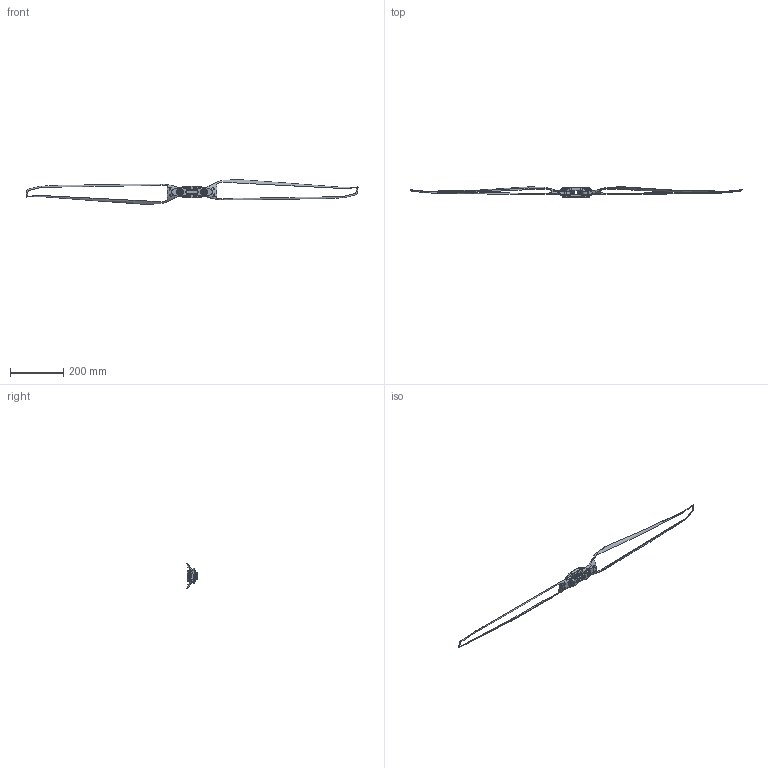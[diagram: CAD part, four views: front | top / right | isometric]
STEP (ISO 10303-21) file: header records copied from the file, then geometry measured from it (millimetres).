
FILE_DESCRIPTION (( 'STEP AP203' ), '1' );
FILE_NAME ('49渡蔑標蚾饜.STEP', '2025-02-11T05:25:42', ( '' ), ( '' ), 'SwSTEP 2.0', 'SolidWorks 2022', '' );
FILE_SCHEMA (( 'CONFIG_CONTROL_DESIGN' ));
Length unit declared in the file: millimetre
Products named in the file (7): 49寸桨夹装配; 下板0000; MF4918P-V2.0-CW.stp; 上板0000; 49寸桨夹下板-X2.step; 钢轴333; 垫片000
Assembly tree (10 placements, depth 2):
  49寸桨夹装配
    下板0000
    上板0000
    钢轴333
    垫片000  x4
    MF4918P-V2.0-CW.stp  x2
    49寸桨夹下板-X2.step
Bounding box: 1245.66 x 39.73 x 93.64 mm (x, y, z)
Volume: 212039.4 mm3; surface area: 115396.5 mm2
Topology: 10 solids, 10 shells, 860 faces, 2376 edges, 1576 vertices
Faces by surface type: cylinder 362, plane 218, bspline 182, torus 74, cone 24
Entity records: 51370 total; most frequent: CARTESIAN_POINT 31902, ORIENTED_EDGE 4030, DIRECTION 3820, EDGE_CURVE 2015, AXIS2_PLACEMENT_3D 1498, VERTEX_POINT 1323, CIRCLE 838, EDGE_LOOP 828
